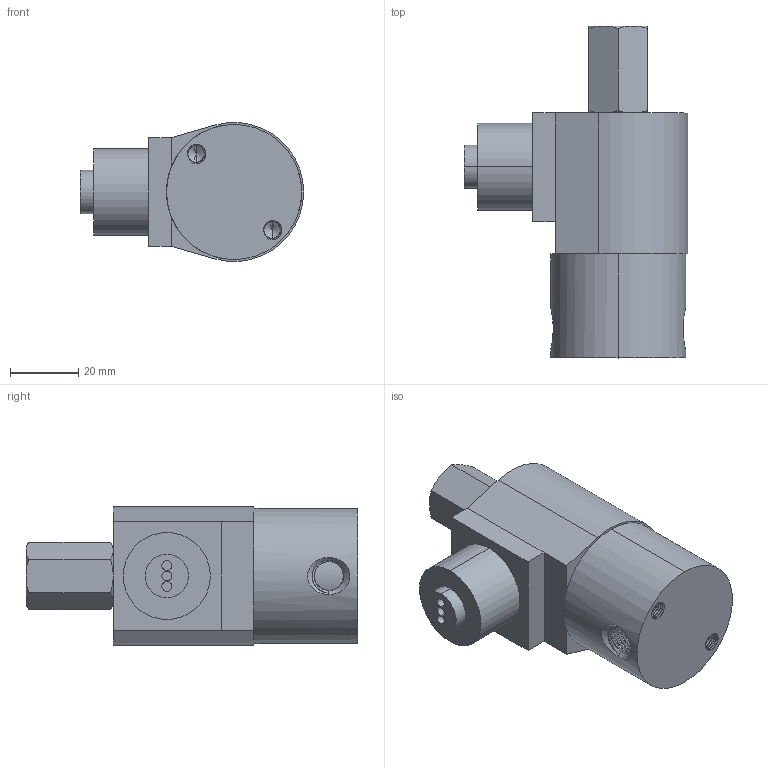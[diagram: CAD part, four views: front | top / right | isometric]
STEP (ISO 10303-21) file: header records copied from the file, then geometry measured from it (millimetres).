
FILE_DESCRIPTION (( 'STEP AP203' ), '1' );
FILE_NAME ('S303G_A.STEP', '2021-12-06T20:58:31', ( '' ), ( '' ), 'SwSTEP 2.0', 'SolidWorks 2020', '' );
FILE_SCHEMA (( 'CONFIG_CONTROL_DESIGN' ));
Length unit declared in the file: inch
Products named in the file (1): S303G_A
Bounding box: 65.23 x 96.9 x 40.57 mm (x, y, z)
Volume: 110687.3 mm3; surface area: 17837.3 mm2
Topology: 1 solids, 1 shells, 163 faces, 445 edges, 291 vertices
Faces by surface type: cylinder 89, plane 27, cone 26, bspline 21
Entity records: 13887 total; most frequent: CARTESIAN_POINT 10367, ORIENTED_EDGE 882, DIRECTION 546, EDGE_CURVE 441, VERTEX_POINT 291, AXIS2_PLACEMENT_3D 203, EDGE_LOOP 174, ADVANCED_FACE 163
